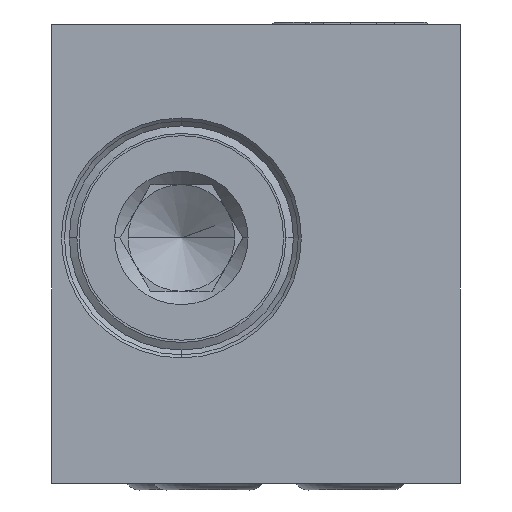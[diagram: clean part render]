
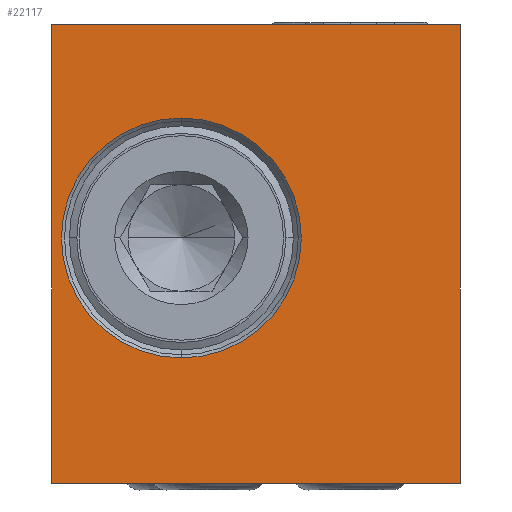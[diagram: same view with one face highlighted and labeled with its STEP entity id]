
A CAD part, left-side view. The second image highlights one B-rep face of the part: STEP entity #22117.
In plain terms, the highlighted planar face has unit normal (-1, 0, 0).
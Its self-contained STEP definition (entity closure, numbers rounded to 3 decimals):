
#4077=DIRECTION('',(0.,0.,1.));
#4078=VECTOR('',#4077,25.8);
#4079=CARTESIAN_POINT('',(-38.,11.5,-12.9));
#4080=LINE('',#4079,#4078);
#4081=DIRECTION('',(0.,-1.,0.));
#4082=VECTOR('',#4081,23.);
#4083=CARTESIAN_POINT('',(-38.,11.5,12.9));
#4084=LINE('',#4083,#4082);
#4085=DIRECTION('',(0.,0.,-1.));
#4086=VECTOR('',#4085,25.8);
#4087=CARTESIAN_POINT('',(-38.,-11.5,12.9));
#4088=LINE('',#4087,#4086);
#4089=DIRECTION('',(0.,1.,0.));
#4090=VECTOR('',#4089,23.);
#4091=CARTESIAN_POINT('',(-38.,-11.5,-12.9));
#4092=LINE('',#4091,#4090);
#4093=CARTESIAN_POINT('',(-38.,4.2,0.9));
#4094=DIRECTION('',(-1.,0.,0.));
#4095=DIRECTION('',(0.,0.,-1.));
#4096=AXIS2_PLACEMENT_3D('',#4093,#4094,#4095);
#4098=CARTESIAN_POINT('',(-38.,4.2,0.9));
#4099=DIRECTION('',(-1.,0.,0.));
#4100=DIRECTION('',(0.,0.,1.));
#4101=AXIS2_PLACEMENT_3D('',#4098,#4099,#4100);
#15139=CARTESIAN_POINT('',(-38.,11.5,12.9));
#15140=VERTEX_POINT('',#15139);
#15141=CARTESIAN_POINT('',(-38.,11.5,-12.9));
#15142=VERTEX_POINT('',#15141);
#15143=CARTESIAN_POINT('',(-38.,-11.5,12.9));
#15144=VERTEX_POINT('',#15143);
#15165=CARTESIAN_POINT('',(-38.,-11.5,-12.9));
#15166=VERTEX_POINT('',#15165);
#15211=CARTESIAN_POINT('',(-38.,4.2,-5.85));
#15212=CARTESIAN_POINT('',(-38.,4.2,7.65));
#15213=VERTEX_POINT('',#15211);
#15214=VERTEX_POINT('',#15212);
#22098=CARTESIAN_POINT('',(-38.,0.,0.));
#22099=DIRECTION('',(-1.,0.,0.));
#22100=DIRECTION('',(0.,-1.,0.));
#22101=AXIS2_PLACEMENT_3D('',#22098,#22099,#22100);
#22102=PLANE('',#22101);
#22103=ORIENTED_EDGE('',*,*,#22091,.T.);
#22104=ORIENTED_EDGE('',*,*,#19841,.T.);
#22106=ORIENTED_EDGE('',*,*,#22105,.T.);
#22108=ORIENTED_EDGE('',*,*,#22107,.T.);
#22109=EDGE_LOOP('',(#22103,#22104,#22106,#22108));
#22110=FACE_OUTER_BOUND('',#22109,.F.);
#22112=ORIENTED_EDGE('',*,*,#22111,.T.);
#22114=ORIENTED_EDGE('',*,*,#22113,.T.);
#22115=EDGE_LOOP('',(#22112,#22114));
#22116=FACE_BOUND('',#22115,.F.);
#22117=ADVANCED_FACE('',(#22110,#22116),#22102,.T.);
#4097=CIRCLE('',#4096,6.75);
#4102=CIRCLE('',#4101,6.75);
#19841=EDGE_CURVE('',#15140,#15144,#4084,.T.);
#22091=EDGE_CURVE('',#15142,#15140,#4080,.T.);
#22105=EDGE_CURVE('',#15144,#15166,#4088,.T.);
#22107=EDGE_CURVE('',#15166,#15142,#4092,.T.);
#22111=EDGE_CURVE('',#15213,#15214,#4097,.T.);
#22113=EDGE_CURVE('',#15214,#15213,#4102,.T.);
